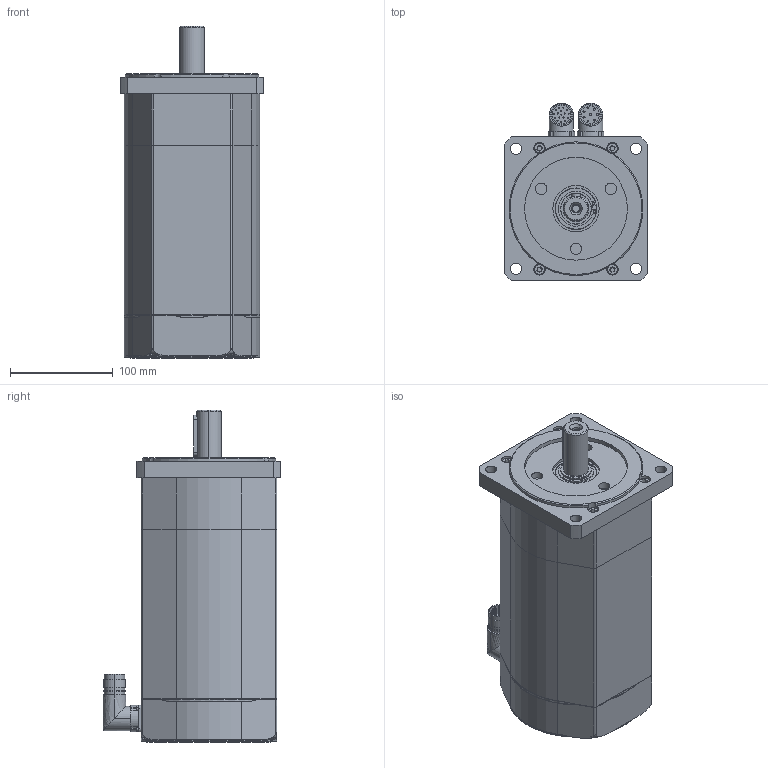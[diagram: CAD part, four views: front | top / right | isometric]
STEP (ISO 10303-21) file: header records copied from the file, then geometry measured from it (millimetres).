
FILE_DESCRIPTION (( 'STEP AP203' ), '1' );
FILE_NAME ('SSAX140S_HJ.STEP', '2015-09-10T13:47:00', ( 'Tecnico motori' ), ( '' ), 'SwSTEP 2.0', 'SolidWorks 2010', '' );
FILE_SCHEMA (( 'CONFIG_CONTROL_DESIGN' ));
Length unit declared in the file: millimetre
Products named in the file (1): SSAX140S_HJ
Bounding box: 140 x 173 x 322.85 mm (x, y, z)
Surface area: 197436.2 mm2 (no closed solid volume)
Topology: 0 solids, 31 shells, 457 faces, 1296 edges, 901 vertices
Faces by surface type: cylinder 212, plane 186, cone 29, torus 24, bspline 6
Entity records: 16041 total; most frequent: CARTESIAN_POINT 3741, DIRECTION 2754, ORIENTED_EDGE 2232, EDGE_CURVE 1296, AXIS2_PLACEMENT_3D 1080, VERTEX_POINT 901, CIRCLE 628, LINE 594
